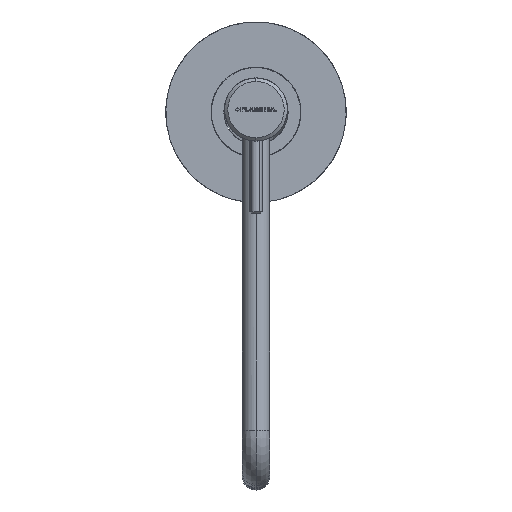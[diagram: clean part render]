
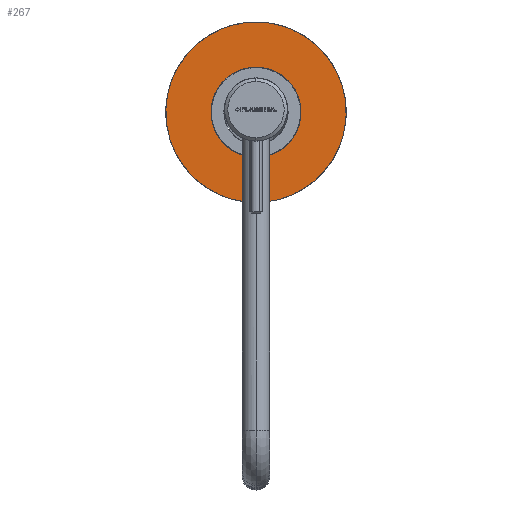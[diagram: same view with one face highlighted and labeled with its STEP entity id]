
A CAD part, top view. The second image highlights one B-rep face of the part: STEP entity #267.
In plain terms, the highlighted planar face has unit normal (0, 0, 1).
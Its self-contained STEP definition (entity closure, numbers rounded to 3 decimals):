
#237=FACE_BOUND('',#1319,.T.);
#267=ADVANCED_FACE('',(#792,#237),#8978,.T.);
#792=FACE_OUTER_BOUND('',#1318,.T.);
#1318=EDGE_LOOP('',(#1879,#1880));
#1319=EDGE_LOOP('',(#1881,#1882));
#1879=ORIENTED_EDGE('',*,*,#4433,.T.);
#1880=ORIENTED_EDGE('',*,*,#4427,.F.);
#1881=ORIENTED_EDGE('',*,*,#4436,.T.);
#1882=ORIENTED_EDGE('',*,*,#4435,.T.);
#4427=EDGE_CURVE('',#7747,#7748,#7371,.T.);
#4433=EDGE_CURVE('',#7747,#7748,#7375,.T.);
#4435=EDGE_CURVE('',#7753,#7754,#7377,.T.);
#4436=EDGE_CURVE('',#7754,#7753,#7378,.T.);
#7371=(
BOUNDED_CURVE()
B_SPLINE_CURVE(2,(#10481,#10482,#10483,#10484,#10485),.UNSPECIFIED.,.F.,
 .F.)
B_SPLINE_CURVE_WITH_KNOTS((3,2,3),(0.,120.,240.),.UNSPECIFIED.)
CURVE()
GEOMETRIC_REPRESENTATION_ITEM()
RATIONAL_B_SPLINE_CURVE((1.,0.707,1.,0.707,1.))
REPRESENTATION_ITEM('')
);
#7375=(
BOUNDED_CURVE()
B_SPLINE_CURVE(2,(#10505,#10506,#10507,#10508,#10509),.UNSPECIFIED.,.F.,
 .F.)
B_SPLINE_CURVE_WITH_KNOTS((3,2,3),(-240.,-120.,0.),.UNSPECIFIED.)
CURVE()
GEOMETRIC_REPRESENTATION_ITEM()
RATIONAL_B_SPLINE_CURVE((1.,0.707,1.,0.707,1.))
REPRESENTATION_ITEM('')
);
#7377=(
BOUNDED_CURVE()
B_SPLINE_CURVE(2,(#10515,#10516,#10517,#10518,#10519),.UNSPECIFIED.,.F.,
 .F.)
B_SPLINE_CURVE_WITH_KNOTS((3,2,3),(0.,55.,110.),.UNSPECIFIED.)
CURVE()
GEOMETRIC_REPRESENTATION_ITEM()
RATIONAL_B_SPLINE_CURVE((1.,0.707,1.,0.707,1.))
REPRESENTATION_ITEM('')
);
#7378=(
BOUNDED_CURVE()
B_SPLINE_CURVE(2,(#10520,#10521,#10522,#10523,#10524),.UNSPECIFIED.,.F.,
 .F.)
B_SPLINE_CURVE_WITH_KNOTS((3,2,3),(0.,55.,110.),.UNSPECIFIED.)
CURVE()
GEOMETRIC_REPRESENTATION_ITEM()
RATIONAL_B_SPLINE_CURVE((1.,0.707,1.,0.707,1.))
REPRESENTATION_ITEM('')
);
#7747=VERTEX_POINT('',#10473);
#7748=VERTEX_POINT('',#10474);
#7753=VERTEX_POINT('',#10479);
#7754=VERTEX_POINT('',#10480);
#8978=PLANE('',#9533);
#9533=AXIS2_PLACEMENT_3D('',#10472,#10002,$);
#10002=DIRECTION('',(0.,0.,1.));
#10472=CARTESIAN_POINT('',(-85.368,-85.368,2.));
#10473=CARTESIAN_POINT('',(-58.698,12.432,2.));
#10474=CARTESIAN_POINT('',(58.698,-12.432,2.));
#10479=CARTESIAN_POINT('',(26.903,-5.698,2.));
#10480=CARTESIAN_POINT('',(-26.903,5.698,2.));
#10481=CARTESIAN_POINT('',(-58.698,12.432,2.));
#10482=CARTESIAN_POINT('',(-46.266,71.13,2.));
#10483=CARTESIAN_POINT('',(12.432,58.698,2.));
#10484=CARTESIAN_POINT('',(71.13,46.266,2.));
#10485=CARTESIAN_POINT('',(58.698,-12.432,2.));
#10505=CARTESIAN_POINT('',(-58.698,12.432,2.));
#10506=CARTESIAN_POINT('',(-71.13,-46.266,2.));
#10507=CARTESIAN_POINT('',(-12.432,-58.698,2.));
#10508=CARTESIAN_POINT('',(46.266,-71.13,2.));
#10509=CARTESIAN_POINT('',(58.698,-12.432,2.));
#10515=CARTESIAN_POINT('',(26.903,-5.698,2.));
#10516=CARTESIAN_POINT('',(21.205,-32.601,2.));
#10517=CARTESIAN_POINT('',(-5.698,-26.903,2.));
#10518=CARTESIAN_POINT('',(-32.601,-21.205,2.));
#10519=CARTESIAN_POINT('',(-26.903,5.698,2.));
#10520=CARTESIAN_POINT('',(-26.903,5.698,2.));
#10521=CARTESIAN_POINT('',(-21.205,32.601,2.));
#10522=CARTESIAN_POINT('',(5.698,26.903,2.));
#10523=CARTESIAN_POINT('',(32.601,21.205,2.));
#10524=CARTESIAN_POINT('',(26.903,-5.698,2.));
